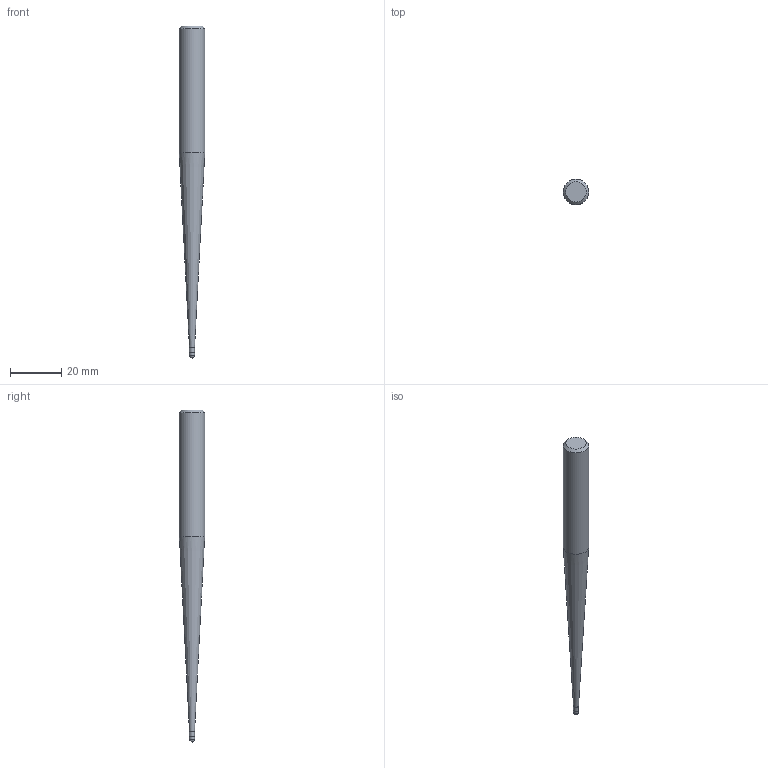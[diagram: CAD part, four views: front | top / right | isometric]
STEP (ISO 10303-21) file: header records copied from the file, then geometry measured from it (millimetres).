
FILE_DESCRIPTION((''),'2;1');
FILE_NAME('C:\Users\nsx150\AppData\Local\Temp\Mastercam 2021\SNAKH10GOD\TEMP.step','2021-10-21T13:33:21',(''),(''),'STEP Write','Mastercam 2021 ... CNC Software, Inc.','');
FILE_SCHEMA(('AUTOMOTIVE_DESIGN'));
Length unit declared in the file: millimetre
Products named in the file (1): None
Bounding box: 10 x 10 x 130 mm (x, y, z)
Volume: 6372.9 mm3; surface area: 3089.9 mm2
Topology: 2 solids, 2 shells, 9 faces, 14 edges, 8 vertices
Faces by surface type: plane 3, cylinder 3, cone 2, sphere 1
Full cylindrical faces by diameter (mm): 1.985 x1, 2 x1, 10 x1
Entity records: 211 total; most frequent: DIRECTION 36, CARTESIAN_POINT 25, AXIS2_PLACEMENT_3D 18, ORIENTED_EDGE 14, EDGE_LOOP 14, STYLED_ITEM 12, ADVANCED_FACE 9, FACE_BOUND 8
